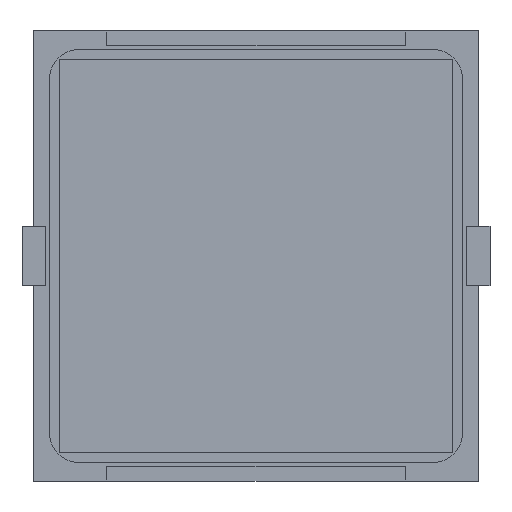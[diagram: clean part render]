
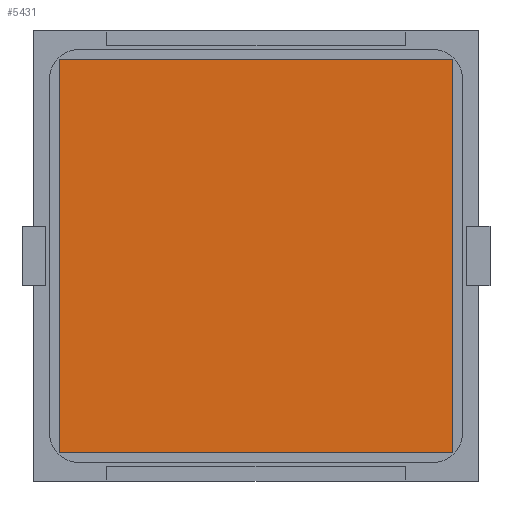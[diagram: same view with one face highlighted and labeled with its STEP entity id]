
A CAD part, front view. The second image highlights one B-rep face of the part: STEP entity #5431.
In plain terms, the highlighted planar face has unit normal (0, -1, 0).
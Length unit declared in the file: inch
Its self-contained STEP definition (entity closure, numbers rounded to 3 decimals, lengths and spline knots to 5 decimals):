
#121 = DIRECTION ( 'NONE',  ( -1., 0., 0. ) ) ;
#178 = PLANE ( 'NONE',  #9736 ) ;
#281 = DIRECTION ( 'NONE',  ( 0., 0., 1. ) ) ;
#330 = DIRECTION ( 'NONE',  ( 0., 1., 0. ) ) ;
#369 = ORIENTED_EDGE ( 'NONE', *, *, #1873, .F. ) ;
#533 = DIRECTION ( 'NONE',  ( 1., 0., 0. ) ) ;
#535 = VERTEX_POINT ( 'NONE', #3068 ) ;
#560 = VERTEX_POINT ( 'NONE', #8207 ) ;
#1805 = EDGE_CURVE ( 'NONE', #7060, #5290, #6354, .T. ) ;
#1814 = CARTESIAN_POINT ( 'NONE',  ( -0.64961, -0.005, -0.64961 ) ) ;
#1873 = EDGE_CURVE ( 'NONE', #535, #7060, #3307, .T. ) ;
#2251 = CARTESIAN_POINT ( 'NONE',  ( 0.64961, -0.005, -0.64961 ) ) ;
#2704 = ORIENTED_EDGE ( 'NONE', *, *, #10368, .F. ) ;
#2910 = EDGE_LOOP ( 'NONE', ( #6630, #369, #10385, #2704 ) ) ;
#3068 = CARTESIAN_POINT ( 'NONE',  ( 0.64961, -0.005, -0.64961 ) ) ;
#3100 = DIRECTION ( 'NONE',  ( 0., 0., 1. ) ) ;
#3307 = LINE ( 'NONE', #1814, #8943 ) ;
#3752 = CARTESIAN_POINT ( 'NONE',  ( -0.64961, -0.005, 0.64961 ) ) ;
#4381 = CARTESIAN_POINT ( 'NONE',  ( -0.64961, -0.005, 0.64961 ) ) ;
#4823 = CARTESIAN_POINT ( 'NONE',  ( -0.64961, -0.005, -0.64961 ) ) ;
#4847 = VECTOR ( 'NONE', #3100, 39.37008 ) ;
#5290 = VERTEX_POINT ( 'NONE', #3752 ) ;
#5431 = ADVANCED_FACE ( 'NONE', ( #10091 ), #178, .F. ) ;
#6256 = DIRECTION ( 'NONE',  ( 0., 0., -1. ) ) ;
#6354 = LINE ( 'NONE', #4823, #4847 ) ;
#6617 = CARTESIAN_POINT ( 'NONE',  ( -0.64961, -0.005, -0.64961 ) ) ;
#6630 = ORIENTED_EDGE ( 'NONE', *, *, #1805, .F. ) ;
#7060 = VERTEX_POINT ( 'NONE', #6617 ) ;
#7147 = LINE ( 'NONE', #2251, #8764 ) ;
#7151 = VECTOR ( 'NONE', #533, 39.37008 ) ;
#7989 = CARTESIAN_POINT ( 'NONE',  ( -0.64961, -0.005, 0.64961 ) ) ;
#8207 = CARTESIAN_POINT ( 'NONE',  ( 0.64961, -0.005, 0.64961 ) ) ;
#8687 = EDGE_CURVE ( 'NONE', #560, #535, #7147, .T. ) ;
#8764 = VECTOR ( 'NONE', #6256, 39.37008 ) ;
#8860 = LINE ( 'NONE', #7989, #7151 ) ;
#8943 = VECTOR ( 'NONE', #121, 39.37008 ) ;
#9736 = AXIS2_PLACEMENT_3D ( 'NONE', #4381, #330, #281 ) ;
#10091 = FACE_OUTER_BOUND ( 'NONE', #2910, .T. ) ;
#10368 = EDGE_CURVE ( 'NONE', #5290, #560, #8860, .T. ) ;
#10385 = ORIENTED_EDGE ( 'NONE', *, *, #8687, .F. ) ;
